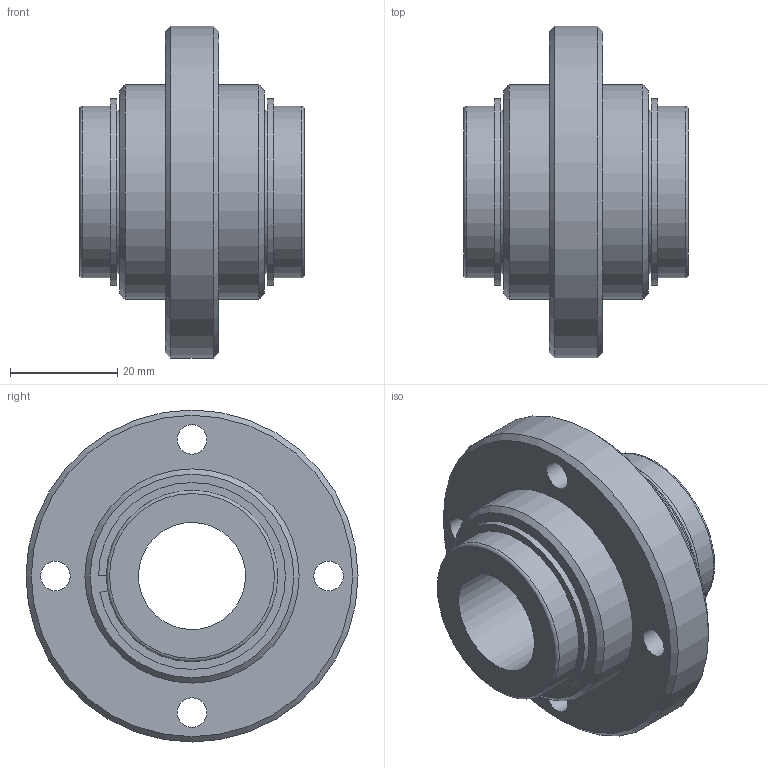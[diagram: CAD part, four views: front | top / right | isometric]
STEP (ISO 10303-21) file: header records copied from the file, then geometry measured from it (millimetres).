
FILE_DESCRIPTION(('STEP AP203'),'1');
FILE_NAME('//192.168.1.1/share/s-4 技術開発/s-4-4_CAD/s-4-4-3_見直し済み/008修正済み/PNCD/PNCD_TOP/PNCD-20VUU.step','2022-02-07T00:28:12',(' '),(' '),'Spatial InterOp 3D',' ',' ');
FILE_SCHEMA(('CONFIG_CONTROL_DESIGN'));
Length unit declared in the file: millimetre
Products named in the file (4): 1; 2; 3; 4
Bounding box: 42 x 62 x 62 mm (x, y, z)
Volume: 49415.7 mm3; surface area: 20858 mm2
Topology: 4 solids, 4 shells, 42 faces, 83 edges, 55 vertices
Faces by surface type: cylinder 18, plane 18, cone 4, torus 2
Full cylindrical faces by diameter (mm): 5.5 x4, 20 x1, 30.3 x2, 32 x4, 40 x2, 62 x1
Entity records: 1156 total; most frequent: DIRECTION 192, CARTESIAN_POINT 154, ORIENTED_EDGE 116, AXIS2_PLACEMENT_3D 88, EDGE_LOOP 80, FACE_OUTER_BOUND 58, EDGE_CURVE 58, VERTEX_POINT 50
